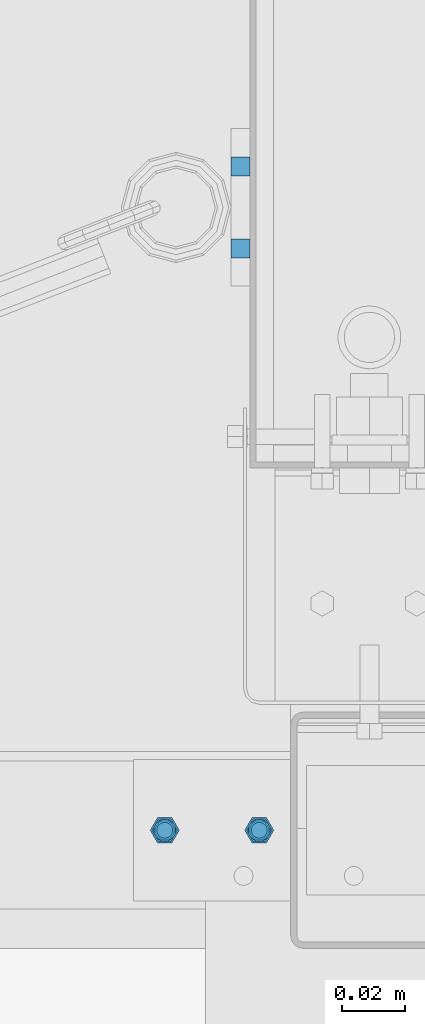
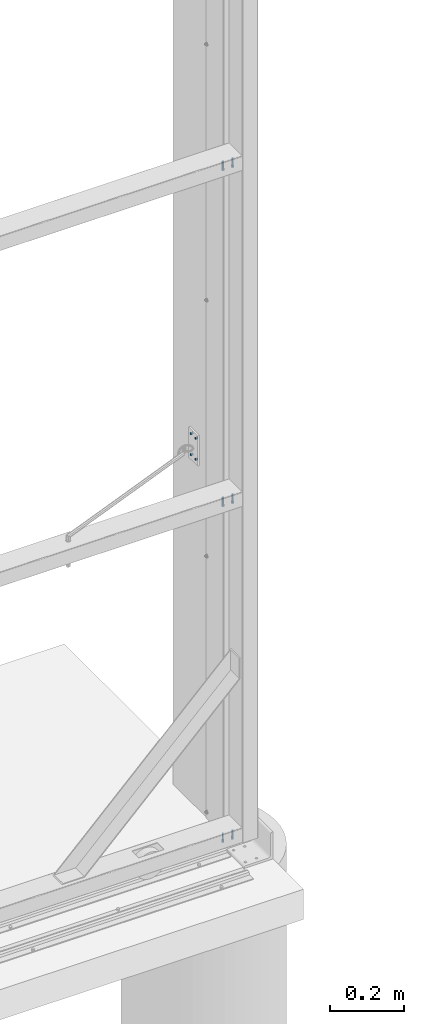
# One storey, part 69 of 91: 7 mechanical fasteners, 2 elements without a shape of their own.
"""IFC2X3 building model written with IfcOpenShell, lengths in millimetres."""

from ifc_helpers import new_model, si_unit, frame, origin_with_axes, origin_2d_with_axis, place, context, subcontext, project, spatial, polyline, circle, outline, extrude, source, transform, mapped, material, type_object, element, aggregate, save


model = new_model("IFC2X3")

# Units and contexts
model_context = context("Model", 3, precision=1e-05, world=origin_with_axes())
body_context = subcontext(model_context, "Body", "Model", "MODEL_VIEW")
ifc_project = project(units=[si_unit("LENGTHUNIT", "METRE", prefix="MILLI"), si_unit("AREAUNIT", "SQUARE_METRE"), si_unit("VOLUMEUNIT", "CUBIC_METRE"), si_unit("MASSUNIT", "GRAM", prefix="KILO"), si_unit("TIMEUNIT", "SECOND"), si_unit("PLANEANGLEUNIT", "RADIAN"), si_unit("SOLIDANGLEUNIT", "STERADIAN"), si_unit("THERMODYNAMICTEMPERATUREUNIT", "DEGREE_CELSIUS"), si_unit("LUMINOUSINTENSITYUNIT", "LUMEN")], contexts=[model_context])

# Site, building, storey
site_placement = place(None, origin_with_axes())
site = spatial("IfcSite", under=ifc_project, at=site_placement, Name="Undefined", CompositionType="ELEMENT")
building_placement = place(site_placement, origin_with_axes())
building = spatial("IfcBuilding", under=site, at=building_placement, Name="Undefined", CompositionType="ELEMENT")
storey_placement = place(building_placement, origin_with_axes())
storey = spatial("IfcBuildingStorey", under=building, at=storey_placement, Name="Undefined", CompositionType="ELEMENT", Elevation=0.0)

# Assembly, mechanical fasteners
assembly_1_placement = place(storey_placement, origin_with_axes())
assembly_1 = element("IfcElementAssembly", 1, at=assembly_1_placement, inside=storey, Name="PLATE", AssemblyPlace="NOTDEFINED", PredefinedType="RIGID_FRAME")
ifc_material_1 = material(Name="8.8S")
discrete_accessory_type = type_object("IfcDiscreteAccessoryType", Name="Bolt assembly")
shared_shape_1 = source(origin_with_axes(), body_context, "Body", "SweptSolid", [
    extrude(circle(Radius=3.0, at=origin_2d_with_axis()), frame((0.0, 0.0, 0.0), z_axis=(0.0, 1.0, 0.0), x_axis=(1.0, 0.0, 0.0)), (0.0, 0.0, 1.0), 6.1),
])
mechanical_fastener_1_placement = place(assembly_1_placement, frame((-107727.337393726, 87922.9017781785, 1127.34478745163), z_axis=(0.0, 1.0, 0.0), x_axis=(0.0, 0.0, 1.0)))
mechanical_fastener_1 = element("IfcMechanicalFastener", 2, at=mechanical_fastener_1_placement, type_object=discrete_accessory_type, material=ifc_material_1, Name="Bolt assembly", NominalDiameter=6.0, NominalLength=6.0, context=body_context, shape_type="MappedRepresentation", body=[
    mapped(shared_shape_1, transform((0.0, 0.0, 0.0))),
])
mechanical_fastener_2_placement = place(assembly_1_placement, frame((-107727.337393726, 87896.8982218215, 1127.34478745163), z_axis=(0.0, 1.0, 0.0), x_axis=(0.0, 0.0, 1.0)))
mechanical_fastener_2 = element("IfcMechanicalFastener", 3, at=mechanical_fastener_2_placement, type_object=discrete_accessory_type, material=ifc_material_1, Name="Bolt assembly", NominalDiameter=6.0, NominalLength=6.0, context=body_context, shape_type="MappedRepresentation", body=[
    mapped(shared_shape_1, transform((0.0, 0.0, 0.0))),
])
mechanical_fastener_3_placement = place(assembly_1_placement, frame((-107727.337393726, 87922.9017781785, 1197.34), z_axis=(0.0, -1.0, 0.0), x_axis=(0.0, 0.0, -1.0)))
mechanical_fastener_3 = element("IfcMechanicalFastener", 4, at=mechanical_fastener_3_placement, type_object=discrete_accessory_type, material=ifc_material_1, Name="Bolt assembly", NominalDiameter=6.0, NominalLength=6.0, context=body_context, shape_type="MappedRepresentation", body=[
    mapped(shared_shape_1, transform((0.0, 0.0, 0.0))),
])
mechanical_fastener_4_placement = place(assembly_1_placement, frame((-107727.337393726, 87896.8982218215, 1197.34), z_axis=(0.0, -1.0, 0.0), x_axis=(0.0, 0.0, -1.0)))
mechanical_fastener_4 = element("IfcMechanicalFastener", 5, at=mechanical_fastener_4_placement, type_object=discrete_accessory_type, material=ifc_material_1, Name="Bolt assembly", NominalDiameter=6.0, NominalLength=6.0, context=body_context, shape_type="MappedRepresentation", body=[
    mapped(shared_shape_1, transform((0.0, 0.0, 0.0))),
])
aggregate(assembly_1, [mechanical_fastener_1, mechanical_fastener_2, mechanical_fastener_3, mechanical_fastener_4])

assembly_2_placement = place(storey_placement, origin_with_axes())
assembly_2 = element("IfcElementAssembly", 6, at=assembly_2_placement, inside=storey, Name="SLIDING DOOR", AssemblyPlace="NOTDEFINED", PredefinedType="RIGID_FRAME")
ifc_material_2 = material(Name="TEK_11TPIM")
shared_shape_2 = source(origin_with_axes(), body_context, "Body", "SweptSolid", [
    extrude(circle(Radius=3.0, at=origin_2d_with_axis()), frame((0.0, 0.103333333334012, 0.0), z_axis=(0.0, 1.0, 0.0), x_axis=(1.0, 0.0, 0.0)), (0.0, 0.0, 1.0), 2.0),
    extrude(circle(Radius=3.0, at=origin_2d_with_axis()), frame((0.0, 2.4, 0.0), z_axis=(0.0, 1.0, 0.0), x_axis=(1.0, 0.0, 0.0)), (0.0, 0.0, 1.0), 1.7),
    extrude(outline(polyline([(4.61880215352, 0.0), (2.30940107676, 4.00000000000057), (-2.30940107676, 4.00000000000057), (-4.61880215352, 0.0), (-2.30940107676, -4.00000000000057), (2.30940107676, -4.00000000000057), (4.61880215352, 0.0)])), frame((0.0, -4.99666666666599, 0.0), z_axis=(0.0, 1.0, 0.0), x_axis=(1.0, 0.0, 0.0)), (0.0, 0.0, 1.0), 5.0),
    extrude(circle(Radius=3.0, at=origin_2d_with_axis()), frame((0.0, 0.0033333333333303, 0.0), z_axis=(0.0, 1.0, 0.0), x_axis=(1.0, 0.0, 0.0)), (0.0, 0.0, 1.0), 25.0),
    extrude(circle(Radius=3.0, at=origin_2d_with_axis()), frame((0.0, 4.10000002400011, 0.0), z_axis=(0.0, 1.0, 0.0), x_axis=(1.0, 0.0, 0.0)), (0.0, 0.0, 1.0), 0.1),
    extrude(outline(polyline([(3.46410161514, 0.0), (1.73205080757, 3.00000000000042), (-1.73205080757, 3.00000000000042), (-3.46410161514, 0.0), (-1.73205080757, -3.00000000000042), (1.73205080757, -3.00000000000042), (3.46410161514, 0.0)])), frame((0.0, 4.20000002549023, 0.0), z_axis=(0.0, 1.0, 0.0), x_axis=(1.0, 0.0, 0.0)), (0.0, 0.0, 1.0), 0.1),
])
mechanical_fastener_5_placement = place(assembly_2_placement, frame((-107748.34, 87712.15, 2211.66), z_axis=(0.0, -1.0, 0.0), x_axis=(1.0, 0.0, 0.0)))
mechanical_fastener_5 = element("IfcMechanicalFastener", 7, at=mechanical_fastener_5_placement, type_object=discrete_accessory_type, material=ifc_material_2, Name="Bolt assembly", NominalDiameter=6.0, NominalLength=25.0, context=body_context, shape_type="MappedRepresentation", body=[
    mapped(shared_shape_2, transform((0.0, 0.0, 0.0))),
    mapped(shared_shape_2, transform((30.0, 0.0, 0.0))),
])
shared_shape_3 = source(origin_with_axes(), body_context, "Body", "SweptSolid", [
    extrude(circle(Radius=3.0, at=origin_2d_with_axis()), frame((0.0, 0.0966666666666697, 0.0), z_axis=(0.0, 1.0, 0.0), x_axis=(1.0, 0.0, 0.0)), (0.0, 0.0, 1.0), 2.0),
    extrude(circle(Radius=3.0, at=origin_2d_with_axis()), frame((0.0, 2.4, 0.0), z_axis=(0.0, 1.0, 0.0), x_axis=(1.0, 0.0, 0.0)), (0.0, 0.0, 1.0), 1.7),
    extrude(outline(polyline([(4.61880215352, 0.0), (2.30940107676, 4.00000000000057), (-2.30940107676, 4.00000000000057), (-4.61880215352, 0.0), (-2.30940107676, -4.00000000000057), (2.30940107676, -4.00000000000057), (4.61880215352, 0.0)])), frame((0.0, -5.00333333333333, 0.0), z_axis=(0.0, 1.0, 0.0), x_axis=(1.0, 0.0, 0.0)), (0.0, 0.0, 1.0), 5.0),
    extrude(circle(Radius=3.0, at=origin_2d_with_axis()), frame((0.0, -0.0033333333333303, 0.0), z_axis=(0.0, 1.0, 0.0), x_axis=(1.0, 0.0, 0.0)), (0.0, 0.0, 1.0), 25.0),
    extrude(circle(Radius=3.0, at=origin_2d_with_axis()), frame((0.0, 4.10000002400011, 0.0), z_axis=(0.0, 1.0, 0.0), x_axis=(1.0, 0.0, 0.0)), (0.0, 0.0, 1.0), 0.1),
    extrude(outline(polyline([(3.46410161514, 0.0), (1.73205080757, 3.00000000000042), (-1.73205080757, 3.00000000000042), (-3.46410161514, 0.0), (-1.73205080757, -3.00000000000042), (1.73205080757, -3.00000000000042), (3.46410161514, 0.0)])), frame((0.0, 4.20000002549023, 0.0), z_axis=(0.0, 1.0, 0.0), x_axis=(1.0, 0.0, 0.0)), (0.0, 0.0, 1.0), 0.1),
])
mechanical_fastener_6_placement = place(assembly_2_placement, frame((-107748.34, 87712.15, 1097.34), z_axis=(0.0, -1.0, 0.0), x_axis=(1.0, 0.0, 0.0)))
mechanical_fastener_6 = element("IfcMechanicalFastener", 8, at=mechanical_fastener_6_placement, type_object=discrete_accessory_type, material=ifc_material_2, Name="Bolt assembly", NominalDiameter=6.0, NominalLength=25.0, context=body_context, shape_type="MappedRepresentation", body=[
    mapped(shared_shape_3, transform((0.0, 0.0, 0.0))),
    mapped(shared_shape_3, transform((30.0, 0.0, 0.0))),
])
ifc_material_3 = material(Name="TEK_16TPIM")
shared_shape_4 = source(origin_with_axes(), body_context, "Body", "SweptSolid", [
    extrude(circle(Radius=3.5, at=origin_2d_with_axis()), frame((0.0, 0.1, 0.0), z_axis=(0.0, 1.0, 0.0), x_axis=(1.0, 0.0, 0.0)), (0.0, 0.0, 1.0), 2.0),
    extrude(circle(Radius=3.5, at=origin_2d_with_axis()), frame((0.0, 2.4, 0.0), z_axis=(0.0, 1.0, 0.0), x_axis=(1.0, 0.0, 0.0)), (0.0, 0.0, 1.0), 1.7),
    extrude(outline(polyline([(4.04145188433, 0.0), (2.020725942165, 3.5000000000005), (-2.020725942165, 3.5000000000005), (-4.04145188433, 0.0), (-2.020725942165, -3.5000000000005), (2.020725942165, -3.5000000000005), (4.04145188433, 0.0)])), frame((0.0, -5.0, 0.0), z_axis=(0.0, 1.0, 0.0), x_axis=(1.0, 0.0, 0.0)), (0.0, 0.0, 1.0), 5.0),
    extrude(circle(Radius=2.5, at=origin_2d_with_axis()), frame((0.0, 0.0, 0.0), z_axis=(0.0, 1.0, 0.0), x_axis=(1.0, 0.0, 0.0)), (0.0, 0.0, 1.0), 25.0),
    extrude(circle(Radius=2.5, at=origin_2d_with_axis()), frame((0.0, 4.10000002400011, 0.0), z_axis=(0.0, 1.0, 0.0), x_axis=(1.0, 0.0, 0.0)), (0.0, 0.0, 1.0), 0.1),
    extrude(outline(polyline([(2.88675134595, 0.0), (1.443375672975, 2.50000000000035), (-1.443375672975, 2.50000000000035), (-2.88675134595, 0.0), (-1.443375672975, -2.50000000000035), (1.443375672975, -2.50000000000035), (2.88675134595, 0.0)])), frame((0.0, 4.20000002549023, 0.0), z_axis=(0.0, 1.0, 0.0), x_axis=(1.0, 0.0, 0.0)), (0.0, 0.0, 1.0), 0.1),
])
mechanical_fastener_7_placement = place(assembly_2_placement, frame((-107748.34, 87712.15, -17.0), z_axis=(0.0, -1.0, 0.0), x_axis=(1.0, 0.0, 0.0)))
mechanical_fastener_7 = element("IfcMechanicalFastener", 9, at=mechanical_fastener_7_placement, type_object=discrete_accessory_type, material=ifc_material_3, Name="Bolt assembly", NominalDiameter=5.0, NominalLength=25.0, context=body_context, shape_type="MappedRepresentation", body=[
    mapped(shared_shape_4, transform((0.0, 0.0, 0.0))),
    mapped(shared_shape_4, transform((30.0, 0.0, 0.0))),
])
aggregate(assembly_2, [mechanical_fastener_5, mechanical_fastener_6, mechanical_fastener_7])

save(model, "model.ifc")
